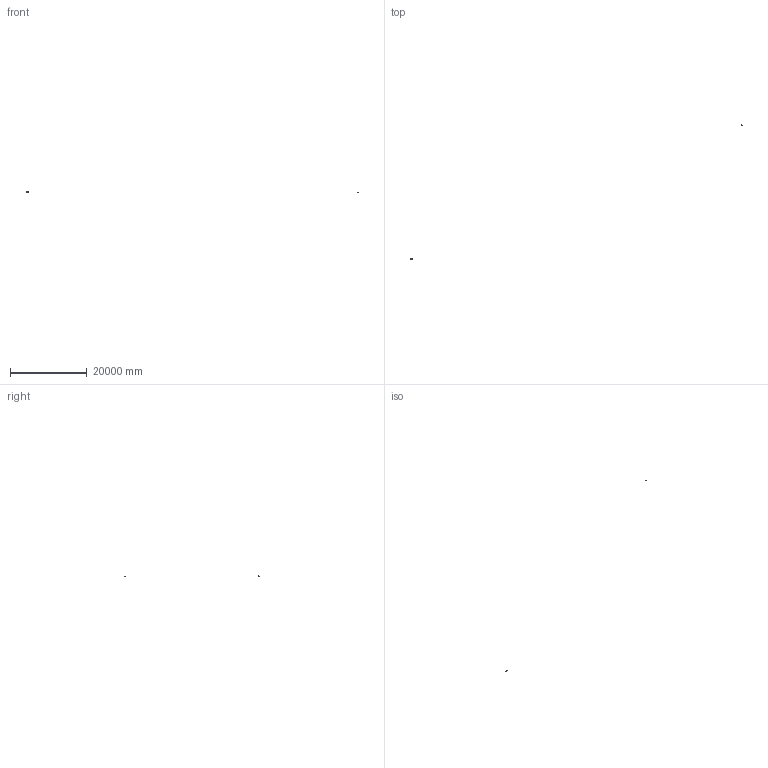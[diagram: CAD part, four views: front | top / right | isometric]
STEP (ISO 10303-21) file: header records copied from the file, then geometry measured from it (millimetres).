
FILE_DESCRIPTION(('Creo Elements/Direct Modeling STEP Export'),'2;1');
FILE_NAME('3D-Model_MLC SC W2_560_72_yzz HE G3__(WU-M-739)_STC.stp','2025-05-07T14:54:45',(''),(''),'PTC Creo Elements/Direct Modeling STEP processor for AP214 (Solid Model)','PTC Creo Elements/Direct Modeling 19.0E 27-Jun-2016 (C) Parametric Technology GmbH','');
FILE_SCHEMA(('AUTOMOTIVE_DESIGN { 1 0 10303 214 1 1 1 1 }'));
Length unit declared in the file: millimetre
Products named in the file (208): p1.2; p1.1; p1; PLATE.58; PLATE.59; PLATE.61; PLATE.63; PLATE.64; PLATE.56; PLATE.60; PLATE.62; PLATE.55; PLATE.54; PLATE.57; PLATE.124; PLATE.121; PLATE.127; PLATE.123; PLATE.126; PLATE.125; PLATE.122; PLATE.88; PLATE.89; PLATE.92; PLATE.95; PLATE.87; PLATE.91; PLATE.96; PLATE.97; PLATE.93; PLATE.94; PLATE.90; PLATE.40; PLATE.41; PLATE.16; PLATE.8; PLATE.34; PLATE.2; PLATE.6; PLATE.13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
Assembly tree (202 placements, depth 2):
  p1.2
  p1.1
  p1
  PRINT
    PLATE.84
    PLATE.80
    PLATE.83
    PLATE.76
    PLATE.85
    PLATE.78
    PLATE.82
    PLATE.86
    PLATE.79
    PLATE.77
    PLATE.81
    PLATE.110
    PLATE.117
    PLATE.115
    PLATE.119
    PLATE.118
    PLATE.109
    PLATE.112
    PLATE.100
    PLATE.114
    PLATE.106
    PLATE.105
    PLATE.108
    PLATE.107
    PLATE.98
    PLATE.99
    PLATE.111
    PLATE.113
    PLATE.101
    PLATE.120
    PLATE.116
    PLATE.104
    PLATE.103
    PLATE.102
    PLATE.71
    PLATE.66
    PLATE.65
    PLATE.70
    PLATE.75
    PLATE.74
    PLATE.69
    PLATE.73
    PLATE.68
    PLATE.67
    PLATE.72
    PLATE.51
    PLATE.48
    PLATE.47
    PLATE.52
    PLATE.49
    PLATE.50
    PLATE.46
    PLATE.53
    PLATE.45
    PLATE.44
    PLATE.43
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Bounding box: 86437.48 x 34887.99 x 4.3 mm (x, y, z)
Volume: 17858 mm3; surface area: 27698.4 mm2
Topology: 203 solids, 203 shells, 9654 faces, 26320 edges, 17278 vertices
Faces by surface type: plane 7573, cylinder 2081
Entity records: 130179 total; most frequent: CARTESIAN_POINT 17935, ORIENTED_EDGE 17448, DIRECTION 17233, EDGE_CURVE 8724, VECTOR 6959, LINE 6959, VERTEX_POINT 5810, AXIS2_PLACEMENT_3D 5137
